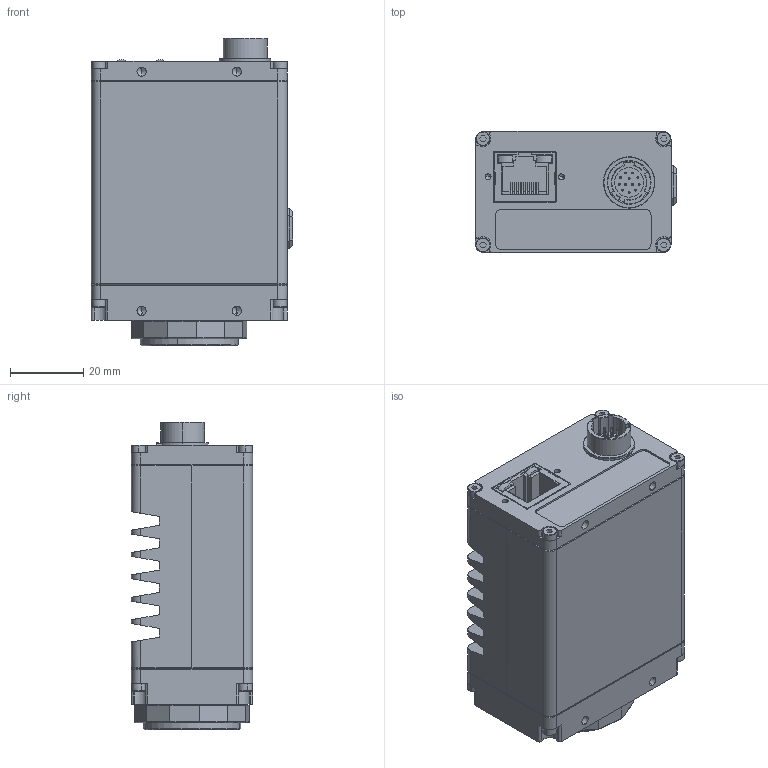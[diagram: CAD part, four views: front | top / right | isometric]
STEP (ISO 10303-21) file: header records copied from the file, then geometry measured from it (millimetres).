
FILE_DESCRIPTION (( 'STEP AP214' ), '1' );
FILE_NAME ('GT2460 C-MOUNT.STEP', '2018-01-12T21:10:49', ( '' ), ( '' ), 'SwSTEP 2.0', 'SolidWorks 2017', '' );
FILE_SCHEMA (( 'AUTOMOTIVE_DESIGN' ));
Length unit declared in the file: millimetre
Products named in the file (4): GT BODY ASSY SHORT - defeatured_GT2460; C-MOUNT LOCKING RING; GT1930 C-MOUNT RING; GT2460 C-MOUNT
Assembly tree (3 placements, depth 2):
  GT2460 C-MOUNT
    GT BODY ASSY SHORT - defeatured_GT2460
    GT1930 C-MOUNT RING
    C-MOUNT LOCKING RING
Bounding box: 54.84 x 33.02 x 83.77 mm (x, y, z)
Volume: 99029.3 mm3; surface area: 35777.6 mm2
Topology: 3 solids, 15 shells, 1307 faces, 3367 edges, 2087 vertices
Faces by surface type: plane 703, cylinder 331, cone 214, torus 35, sphere 24
Entity records: 47872 total; most frequent: CARTESIAN_POINT 7179, DIRECTION 6697, ORIENTED_EDGE 6550, EDGE_CURVE 3275, LINE 2335, VECTOR 2335, AXIS2_PLACEMENT_3D 2181, VERTEX_POINT 2063
